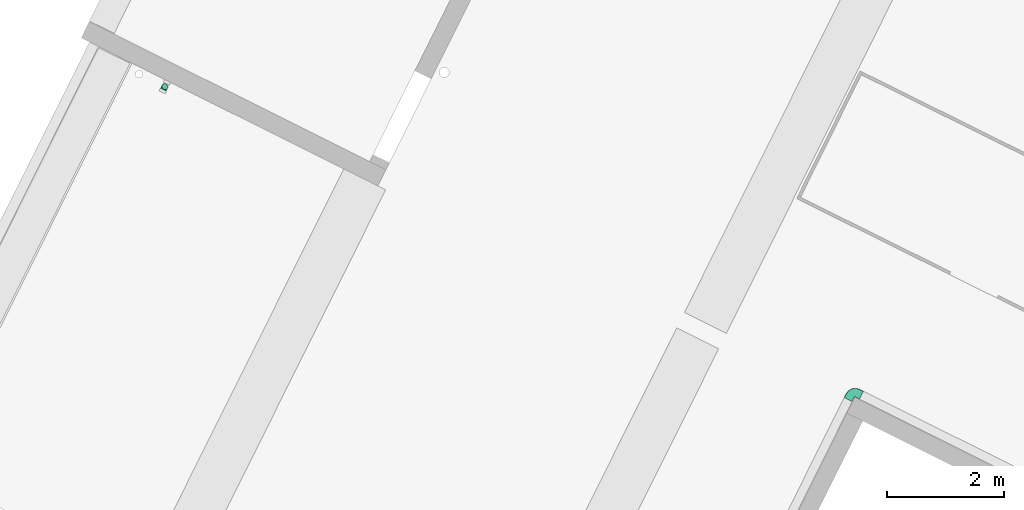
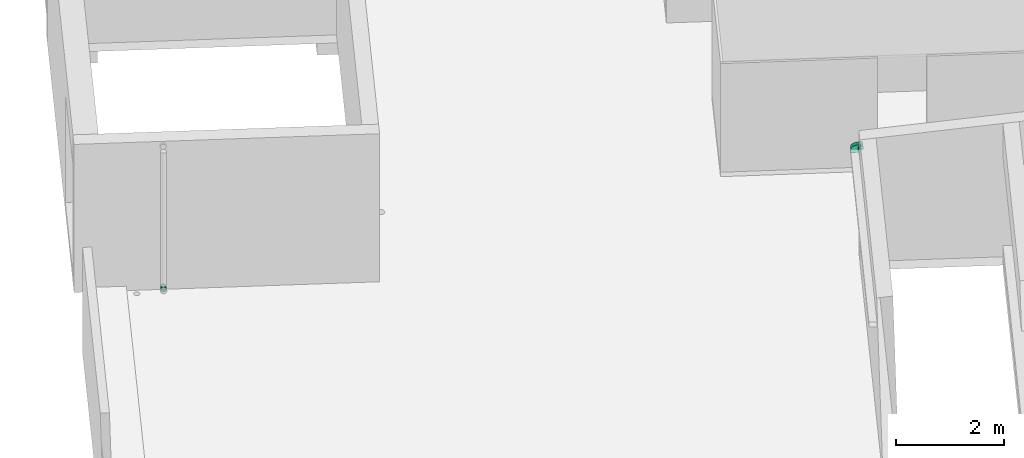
# One storey, part 19 of 34: 2 flow fittings.
"""IFC2X3 building model written with IfcOpenShell, lengths in metres."""

from ifc_helpers import new_model, entity, si_unit, converted_unit, derived_unit, direction, frame, origin, place, context, subcontext, project, spatial, faceted_brep, source, transform, mapped, type_object, type_shapes, element, save


model = new_model("IFC2X3")

# Units and contexts
model_context = context("Model", 3, precision=1e-05, world=origin(), true_north=direction((0.894925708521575, 0.446215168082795)))
context_of_model = context(None, 3, precision=1e-05, world=origin(), true_north=direction((0.894925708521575, 0.446215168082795)))
body_context = subcontext(model_context, "Body", "Model", "MODEL_VIEW")
ifc_project = project(units=[si_unit("LENGTHUNIT", "METRE"), si_unit("AREAUNIT", "SQUARE_METRE"), si_unit("VOLUMEUNIT", "CUBIC_METRE"), converted_unit("PLANEANGLEUNIT", "DEGREE", entity("IfcRatioMeasure", 0.0174532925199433), si_unit("PLANEANGLEUNIT", "RADIAN"), dimensions=[0, 0, 0, 0, 0, 0, 0]), si_unit("MASSUNIT", "GRAM", prefix="KILO"), si_unit("TIMEUNIT", "SECOND"), si_unit("FREQUENCYUNIT", "HERTZ"), si_unit("THERMODYNAMICTEMPERATUREUNIT", "DEGREE_CELSIUS"), derived_unit("THERMALTRANSMITTANCEUNIT", [(si_unit("MASSUNIT", "GRAM", prefix="KILO"), 1), (si_unit("THERMODYNAMICTEMPERATUREUNIT", "KELVIN"), -1), (si_unit("TIMEUNIT", "SECOND"), -3)]), derived_unit("VOLUMETRICFLOWRATEUNIT", [(si_unit("LENGTHUNIT", "METRE"), 3), (si_unit("TIMEUNIT", "SECOND"), -1)]), si_unit("ELECTRICCURRENTUNIT", "AMPERE"), si_unit("ELECTRICVOLTAGEUNIT", "VOLT"), si_unit("POWERUNIT", "WATT"), si_unit("FORCEUNIT", "NEWTON", prefix="KILO"), si_unit("ILLUMINANCEUNIT", "LUX"), si_unit("LUMINOUSFLUXUNIT", "LUMEN"), si_unit("LUMINOUSINTENSITYUNIT", "CANDELA"), si_unit("PRESSUREUNIT", "PASCAL")], contexts=[model_context, context_of_model])

# Site, building, storey
site_placement = place(None, frame((218.228324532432, 584.720189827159, 0.0), z_axis=(0.0, 0.0, 1.0), x_axis=(0.446215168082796, 0.894925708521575, 0.0)))
site = spatial("IfcSite", under=ifc_project, at=site_placement, Name="Default", CompositionType="ELEMENT")
building_placement = place(site_placement, origin())
building = spatial("IfcBuilding", under=site, at=building_placement, CompositionType="ELEMENT")
storey_placement = place(building_placement, frame((0.0, 0.0, 8.61)))
storey = spatial("IfcBuildingStorey", under=building, at=storey_placement, Name="2 - Piano Secondo", CompositionType="ELEMENT", Elevation=8.61)

# Flow fittings
cable_carrier_fitting_type = type_object("IfcCableCarrierFittingType", Name="Standard", PredefinedType="NOTDEFINED")
shared_shape_1 = source(origin(), body_context, "Body", "Brep", [
    faceted_brep([(-0.169999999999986, -0.0724600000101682, -0.0349600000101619), (-0.169999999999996, 0.0724600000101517, -0.0349600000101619), (-0.169999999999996, 0.0724600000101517, 0.0374999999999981), (-0.169999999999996, 0.0749999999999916, 0.0374999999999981), (-0.169999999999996, 0.0749999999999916, -0.0375000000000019), (-0.169999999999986, -0.0750000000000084, -0.0375000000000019), (-0.169999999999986, -0.0750000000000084, 0.0374999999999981), (-0.169999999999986, -0.0724600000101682, 0.0374999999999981), (-0.0749999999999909, 0.169999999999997, -0.0375000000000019), (-0.0749999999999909, 0.169999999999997, 0.0374999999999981), (-0.0724600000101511, 0.169999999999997, 0.0374999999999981), (-0.0724600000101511, 0.169999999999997, -0.0349600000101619), (0.0724600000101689, 0.169999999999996, -0.0349600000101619), (0.0724600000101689, 0.169999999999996, 0.0374999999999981), (0.075000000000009, 0.169999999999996, 0.0374999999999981), (0.075000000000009, 0.169999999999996, -0.0375000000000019), (-0.09499999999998, -0.0750000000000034, -0.0375000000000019), (-0.0949999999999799, -0.0750000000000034, 0.0374999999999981), (-0.0510007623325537, -0.0692073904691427, 0.0374999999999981), (-0.00999999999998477, -0.0522243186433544, 0.0374999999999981), (0.0252081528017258, -0.0252081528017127, 0.0374999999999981), (0.0522243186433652, 0.0099999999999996, 0.0374999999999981), (0.069207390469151, 0.0510007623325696, 0.0374999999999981), (0.0750000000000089, 0.0949999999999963, 0.0374999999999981), (0.0724600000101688, 0.0949999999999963, 0.0374999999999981), (0.0667539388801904, 0.0516581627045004, 0.0374999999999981), (0.0500246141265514, 0.0112699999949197, 0.0374999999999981), (0.023412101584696, -0.023412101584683, 0.0374999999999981), (-0.011269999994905, -0.0500246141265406, 0.0374999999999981), (-0.0516581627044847, -0.0667539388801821, 0.0374999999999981), (-0.0949999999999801, -0.0724600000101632, 0.0374999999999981), (-0.0949999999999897, 0.0724600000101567, 0.0374999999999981), (-0.08936500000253, 0.0739698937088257, 0.0374999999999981), (-0.0837300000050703, 0.0754797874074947, 0.0374999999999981), (-0.0796048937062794, 0.0796048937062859, 0.0374999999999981), (-0.0754797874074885, 0.083730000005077, 0.0374999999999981), (-0.0736114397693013, 0.0907027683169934, 0.0374999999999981), (-0.0724600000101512, 0.0949999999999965, 0.0374999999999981), (-0.0749999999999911, 0.0949999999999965, 0.0374999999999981), (-0.0763551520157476, 0.0917283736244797, 0.0374999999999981), (-0.0779289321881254, 0.0879289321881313, 0.0374999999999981), (-0.0793933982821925, 0.0843933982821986, 0.0374999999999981), (-0.0808578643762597, 0.080857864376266, 0.0374999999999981), (-0.0846573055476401, 0.0792840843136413, 0.0374999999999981), (-0.0884567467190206, 0.0777103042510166, 0.0374999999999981), (-0.0917283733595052, 0.0763551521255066, 0.0374999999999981), (-0.0949999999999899, 0.0749999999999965, 0.0374999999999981), (-0.0949999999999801, -0.0724600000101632, -0.0349600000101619), (-0.0516581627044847, -0.0667539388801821, -0.0349600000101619), (-0.011269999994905, -0.0500246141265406, -0.0349600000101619), (0.023412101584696, -0.023412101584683, -0.0349600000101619), (0.0500246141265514, 0.0112699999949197, -0.0349600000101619), (0.0667539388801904, 0.0516581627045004, -0.0349600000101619), (0.0724600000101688, 0.0949999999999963, -0.0349600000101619), (-0.0724600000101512, 0.0949999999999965, -0.0349600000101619), (-0.0739698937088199, 0.0893650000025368, -0.0349600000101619), (-0.0754797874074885, 0.083730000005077, -0.0349600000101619), (-0.0796048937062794, 0.0796048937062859, -0.0349600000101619), (-0.0837300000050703, 0.0754797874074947, -0.0349600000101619), (-0.0907027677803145, 0.0736114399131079, -0.0349600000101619), (-0.0949999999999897, 0.0724600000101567, -0.0349600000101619), (-0.0949999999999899, 0.0749999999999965, -0.0375000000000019), (-0.0749999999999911, 0.0949999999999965, -0.0375000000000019), (0.0750000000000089, 0.0949999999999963, -0.0375000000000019), (0.069207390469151, 0.0510007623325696, -0.0375000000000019), (0.0522243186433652, 0.0099999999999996, -0.0375000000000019), (0.0252081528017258, -0.0252081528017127, -0.0375000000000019), (-0.00999999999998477, -0.0522243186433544, -0.0375000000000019), (-0.0510007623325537, -0.0692073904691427, -0.0375000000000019), (-0.0914644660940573, 0.0764644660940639, -0.0375000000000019), (-0.0879289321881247, 0.0779289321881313, -0.0375000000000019), (-0.0843933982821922, 0.0793933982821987, -0.0375000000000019), (-0.0808578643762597, 0.080857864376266, -0.0375000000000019), (-0.0793933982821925, 0.0843933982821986, -0.0375000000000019), (-0.0779289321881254, 0.0879289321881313, -0.0375000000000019), (-0.0764644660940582, 0.0914644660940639, -0.0375000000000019)], [[[0, 1, 2, 3, 4, 5, 6, 7]], [[8, 9, 10, 11, 12, 13, 14, 15]], [[6, 5, 16, 17]], [[7, 6, 17, 18, 19, 20, 21, 22, 23, 14, 13, 24, 25, 26, 27, 28, 29, 30]], [[2, 31, 32, 33, 34, 35, 36, 37, 10, 9, 38, 39, 40, 41, 42, 43, 44, 45, 46, 3]], [[0, 7, 30, 47]], [[1, 0, 47, 48, 49, 50, 51, 52, 53, 12, 11, 54, 55, 56, 57, 58, 59, 60]], [[2, 1, 60, 31]], [[4, 3, 46, 61]], [[62, 8, 15, 63, 64, 65, 66, 67, 68, 16, 5, 4, 61, 69, 70, 71, 72, 73, 74, 75]], [[18, 17, 16, 68]], [[19, 18, 68, 67]], [[20, 19, 67, 66]], [[21, 65, 64, 22]], [[22, 64, 63, 23]], [[66, 65, 21, 20]], [[48, 47, 30, 29]], [[49, 48, 29, 28]], [[49, 28, 27, 50]], [[52, 51, 26, 25]], [[53, 52, 25, 24]], [[27, 26, 51, 50]], [[32, 31, 60, 59, 58, 33]], [[56, 35, 34, 33, 58, 57]], [[54, 37, 36, 35, 56, 55]], [[43, 42, 72, 71, 70, 69, 61, 46, 45, 44]], [[41, 40, 39, 38, 62, 75, 74, 73, 72, 42]], [[23, 63, 15, 14]], [[53, 24, 13, 12]], [[37, 54, 11, 10]], [[62, 38, 9, 8]]]),
])
type_shapes(cable_carrier_fitting_type, [shared_shape_1])
flow_fitting_1_placement = place(storey_placement, frame((-4.49937167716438, -8.0160789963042, 2.35), z_axis=(0.0, 0.0, 1.0), x_axis=(0.0, 1.0, 0.0)))
element("IfcFlowFitting", 1, at=flow_fitting_1_placement, inside=storey, type_object=cable_carrier_fitting_type, Name="M_Curvatura orizzontale canale:Standard", ObjectType="Standard", context=body_context, shape_type="MappedRepresentation", body=[
    mapped(shared_shape_1, transform((0.0, 0.0, 0.0), scale=1.0)),
])
pipe_fitting_type = type_object("IfcPipeFittingType", Name="Standard", PredefinedType="NOTDEFINED")
shared_shape_2 = source(origin(), body_context, "Body", "Brep", [
    faceted_brep([(-0.0587374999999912, 0.0135588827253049, -0.0506024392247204), (-0.0587374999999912, 0.0, -0.0523875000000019), (-0.0587374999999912, -0.0135588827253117, -0.0506024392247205), (-0.0587374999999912, -0.0261937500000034, -0.0453689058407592), (-0.0587374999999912, -0.0370435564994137, -0.0370435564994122), (-0.0587374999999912, -0.0453689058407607, -0.026193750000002), (-0.0587374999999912, -0.0506024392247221, -0.0135588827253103), (-0.0587374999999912, -0.0523875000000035, 0.0), (-0.0587374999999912, -0.0506024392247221, 0.0135588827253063), (-0.0587374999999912, -0.0453689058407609, 0.026193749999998), (-0.0587374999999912, -0.0370435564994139, 0.0370435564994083), (-0.0587374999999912, -0.0261937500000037, 0.0453689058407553), (-0.0587374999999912, -0.013558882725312, 0.0506024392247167), (-0.0587374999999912, 0.0, 0.0523874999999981), (-0.0587374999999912, 0.0135588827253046, 0.0506024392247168), (-0.0587374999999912, 0.0198763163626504, 0.0479856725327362), (-0.0587374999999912, 0.0261937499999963, 0.0453689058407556), (-0.0587374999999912, 0.0370435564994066, 0.0370435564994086), (-0.0587374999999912, 0.0453689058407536, 0.0261937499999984), (-0.0587374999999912, 0.050602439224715, 0.0135588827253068), (-0.0587374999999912, 0.0523874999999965, 0.0), (-0.0587374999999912, 0.0506024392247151, -0.0135588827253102), (-0.0587374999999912, 0.0453689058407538, -0.0261937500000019), (-0.0587374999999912, 0.0370435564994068, -0.0370435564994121), (-0.0587374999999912, 0.0261937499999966, -0.0453689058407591), (-0.0506024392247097, 0.0587374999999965, -0.0135588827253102), (-0.0523874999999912, 0.0587374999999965, 0.0), (-0.0506024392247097, 0.0587374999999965, 0.0135588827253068), (-0.0453689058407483, 0.0587374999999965, 0.0261937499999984), (-0.0370435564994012, 0.0587374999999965, 0.0370435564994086), (-0.0261937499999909, 0.0587374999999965, 0.0453689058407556), (-0.0135588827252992, 0.0587374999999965, 0.0506024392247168), (0.0, 0.0587374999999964, 0.0523874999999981), (0.0135588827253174, 0.0587374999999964, 0.0506024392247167), (0.026193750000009, 0.0587374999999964, 0.0453689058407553), (0.0370435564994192, 0.0587374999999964, 0.0370435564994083), (0.0453689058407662, 0.0587374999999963, 0.026193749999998), (0.0506024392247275, 0.0587374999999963, 0.0135588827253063), (0.0523875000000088, 0.0587374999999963, 0.0), (0.0506024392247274, 0.0587374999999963, -0.0135588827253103), (0.0453689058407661, 0.0587374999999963, -0.026193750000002), (0.037043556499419, 0.0587374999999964, -0.0370435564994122), (0.0261937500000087, 0.0587374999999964, -0.0453689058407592), (0.0135588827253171, 0.0587374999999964, -0.0506024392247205), (0.0, 0.0587374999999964, -0.0523875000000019), (-0.0135588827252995, 0.0587374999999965, -0.0506024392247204), (-0.0198763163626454, 0.0587374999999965, -0.0479856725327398), (-0.0261937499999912, 0.0587374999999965, -0.0453689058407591), (-0.0370435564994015, 0.0587374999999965, -0.0370435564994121), (-0.0453689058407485, 0.0587374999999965, -0.0261937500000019), (-0.0477232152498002, -0.0428768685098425, 0.029234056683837), (-0.0404424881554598, -0.0487405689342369, 0.0146871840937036), (-0.0330754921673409, -0.0426115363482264, 0.02541456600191), (-0.0415677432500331, -0.049668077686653, 0.0), (0.0487405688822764, 0.0404424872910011, 0.0146871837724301), (0.031246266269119, 0.0148508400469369, 0.0321295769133), (0.0388833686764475, 0.0178115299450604, 0.0229045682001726), (0.0367285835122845, 0.0270467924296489, 0.0315108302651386), (-0.0199941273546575, -0.0437374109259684, 0.0127317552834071), (-0.0243979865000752, -0.0469486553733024, 0.0), (-0.00890892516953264, -0.039056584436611, 0.0), (0.0201213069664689, 0.0171012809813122, 0.042637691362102), (0.0230744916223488, 0.037920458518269, 0.0456608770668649), (0.00972866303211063, 0.0282591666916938, 0.0498177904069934), (-0.0491222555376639, 0.0144700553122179, 0.0506347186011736), (-0.0461599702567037, 0.0299660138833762, 0.0446893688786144), (-0.0379204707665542, -0.0230744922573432, 0.0456608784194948), (-0.0171012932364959, -0.0201213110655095, 0.0426376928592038), (-0.028259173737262, -0.00972866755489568, 0.0498177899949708), (-0.040589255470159, -0.0342234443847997, 0.0380789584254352), (-0.0270467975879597, -0.0367285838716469, 0.0315108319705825), (-0.0271152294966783, -0.0291112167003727, 0.03930979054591), (-0.0534446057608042, 0.0534446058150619, 0.0108471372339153), (-0.0495063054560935, 0.0496646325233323, 0.025443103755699), (-0.0173243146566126, 0.0419210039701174, 0.0504710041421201), (-0.00371546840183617, 0.0428654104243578, 0.0523668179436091), (-0.0450087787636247, -0.00973337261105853, 0.0511988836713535), (-0.0299568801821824, 0.046486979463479, 0.0446150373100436), (-0.0399230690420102, 0.0173966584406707, 0.0506667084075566), (-0.0424424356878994, 0.00369105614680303, 0.052370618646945), (-0.0263131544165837, 0.00911196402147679, 0.0523846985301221), (-0.00146414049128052, -0.0204367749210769, 0.0349996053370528), (0.00326567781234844, -0.0262911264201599, 0.0241349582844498), (0.0134674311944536, -0.014700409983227, 0.0280406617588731), (-0.051439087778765, 0.0405009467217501, 0.0348719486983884), (0.00973337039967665, 0.0450087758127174, 0.0511988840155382), (0.035173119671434, 0.00432985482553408, 0.0162746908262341), (0.0311645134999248, -0.00658013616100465, 0.0), (0.0390565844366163, 0.00890892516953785, 0.0), (0.00819521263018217, -0.00866873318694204, 0.0378156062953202), (-0.00965050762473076, -0.0101996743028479, 0.0455427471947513), (0.0428768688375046, 0.047723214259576, 0.0292340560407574), (-0.0246124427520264, 0.0342586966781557, 0.0496407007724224), (-0.0333214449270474, 0.0280057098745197, 0.048875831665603), (-0.0208506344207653, 0.0237046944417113, 0.0518992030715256), (0.0342234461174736, 0.0405892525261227, 0.0380789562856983), (0.0291112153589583, 0.0271152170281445, 0.0393097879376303), (0.0469486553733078, 0.0243979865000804, 0.0), (0.0496680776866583, 0.0415677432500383, 0.0), (0.043737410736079, 0.0199941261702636, 0.0127317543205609), (-0.00986713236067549, 0.0306998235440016, 0.0523327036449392), (-0.0542473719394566, 0.0542473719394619, 0.0), (-0.0405009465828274, 0.0514390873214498, 0.0348719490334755), (-0.0424073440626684, 0.0424073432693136, 0.0383928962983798), (0.0238466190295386, -0.0126740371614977, 0.0141509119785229), (-0.0141620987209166, -0.000990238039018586, 0.0499511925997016), (-0.00750695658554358, 0.0132290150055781, 0.0514652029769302), (0.00658013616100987, -0.0311645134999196, 0.0), (-0.00432985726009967, -0.0351731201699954, 0.0162746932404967), (0.042611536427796, 0.0330754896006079, 0.025414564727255), (-0.0347196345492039, 0.037964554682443, 0.0449042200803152), (0.000171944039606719, 0.0306895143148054, 0.0519816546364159), (-0.0178115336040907, -0.0388833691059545, 0.022904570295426), (0.0188723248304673, -0.0188723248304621, 0.0), (0.0120090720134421, -0.0250981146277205, 0.0121471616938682), (0.0200875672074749, 0.000757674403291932, 0.0348495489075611), (0.024463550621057, -0.0051316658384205, 0.0247890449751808), (0.000788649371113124, -0.000788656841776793, 0.0457929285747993), (0.00240405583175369, 0.0189002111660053, 0.0504158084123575), (0.0110535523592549, 0.0154294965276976, 0.0468715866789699), (-0.0148508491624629, -0.0312462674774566, 0.0321295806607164), (0.0125287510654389, 0.00468746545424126, 0.0424445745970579), (-0.0144700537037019, 0.0491222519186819, -0.0506347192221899), (-0.00432985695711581, -0.0351731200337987, -0.0162746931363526), (-0.0199941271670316, -0.0437374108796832, -0.0127317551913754), (-0.041921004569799, 0.0173243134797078, -0.0504710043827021), (-0.0428654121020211, 0.00371546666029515, -0.0523668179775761), (-0.0496646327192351, 0.0495063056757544, -0.0254431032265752), (-0.0424073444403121, 0.0424073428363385, -0.0383928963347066), (-0.0514390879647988, 0.0405009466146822, -0.0348719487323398), (0.020436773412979, 0.00146413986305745, -0.0349996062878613), (0.00866872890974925, -0.00819521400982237, -0.0378156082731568), (0.0101996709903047, 0.00965050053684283, -0.0455427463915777), (-0.0171012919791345, -0.020121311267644, -0.0426376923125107), (-0.0148508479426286, -0.0312462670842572, -0.0321295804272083), (-0.027115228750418, -0.0291112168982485, -0.0393097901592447), (-0.00911196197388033, 0.0263131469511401, -0.0523846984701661), (0.00972866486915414, 0.0282591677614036, -0.049817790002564), (0.000990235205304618, 0.0141620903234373, -0.0499511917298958), (-0.0132290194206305, 0.0075069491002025, -0.0514652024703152), (-0.0237046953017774, 0.0208506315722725, -0.0518992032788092), (-0.0404424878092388, -0.0487405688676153, -0.014687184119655), (-0.0477232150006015, -0.0428768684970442, -0.0292340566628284), (-0.0280057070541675, 0.0333214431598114, -0.0488758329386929), (-0.0299660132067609, 0.0461599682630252, -0.0446893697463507), (-0.0173966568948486, 0.0399230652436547, -0.0506667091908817), (-0.0534446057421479, 0.0534446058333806, -0.0108471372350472), (-0.0405892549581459, -0.034223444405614, -0.0380789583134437), (-0.0379204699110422, -0.0230744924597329, -0.0456608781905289), (-0.0282591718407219, -0.00972866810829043, -0.0498177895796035), (-0.0342586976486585, 0.0246124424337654, -0.0496407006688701), (-0.0464869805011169, 0.0299568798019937, -0.044615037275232), (-0.045008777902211, -0.00973337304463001, -0.0511988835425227), (-0.0178115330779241, -0.0388833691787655, -0.022904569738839), (-0.0270467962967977, -0.0367285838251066, -0.0315108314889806), (-0.0330754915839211, -0.0426115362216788, -0.0254145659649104), (0.0230744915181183, 0.0379204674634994, -0.0456608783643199), (0.0291112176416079, 0.0271152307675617, -0.0393097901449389), (0.0201213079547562, 0.0171012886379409, -0.0426376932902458), (-0.040500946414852, 0.0514390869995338, -0.0348719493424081), (-0.00369105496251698, 0.0424424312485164, -0.0523706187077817), (0.0428768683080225, 0.0477232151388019, -0.0292340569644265), (0.00973337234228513, 0.045008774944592, -0.0511988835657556), (0.0342234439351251, 0.0405892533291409, -0.0380789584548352), (0.0262911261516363, -0.00326567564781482, -0.0241349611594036), (0.0147004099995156, -0.0134674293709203, -0.0280406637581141), (0.0487405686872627, 0.0404424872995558, -0.0146871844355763), (0.0437374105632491, 0.0199941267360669, -0.0127317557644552), (0.0426115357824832, 0.0330754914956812, -0.0254145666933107), (0.0126740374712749, -0.0238466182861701, -0.0141509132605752), (-0.0306998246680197, 0.00986712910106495, -0.052332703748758), (0.0367285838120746, 0.0270467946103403, -0.0315108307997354), (0.0351731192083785, 0.00432985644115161, -0.0162746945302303), (-0.0379645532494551, 0.0347196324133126, -0.0449042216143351), (-0.0306895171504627, -0.000171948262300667, -0.0519816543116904), (0.0388833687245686, 0.0178115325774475, -0.0229045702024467), (0.025098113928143, -0.0120090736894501, -0.0121471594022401), (-0.000757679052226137, -0.0200875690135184, -0.0348495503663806), (0.0051316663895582, -0.0244635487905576, -0.0247890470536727), (0.000788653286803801, -0.000788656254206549, -0.0457929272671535), (-0.0189002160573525, -0.00240406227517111, -0.050415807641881), (-0.0154295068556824, -0.0110535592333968, -0.0468715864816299), (0.0312462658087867, 0.0148508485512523, -0.0321295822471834), (-0.00468747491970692, -0.0125287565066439, -0.0424445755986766)], [[[0, 1, 2, 3, 4, 5, 6, 7, 8, 9, 10, 11, 12, 13, 14, 15, 16, 17, 18, 19, 20, 21, 22, 23, 24]], [[25, 26, 27, 28, 29, 30, 31, 32, 33, 34, 35, 36, 37, 38, 39, 40, 41, 42, 43, 44, 45, 46, 47, 48, 49]], [[50, 51, 52]], [[53, 8, 7]], [[36, 54, 37]], [[55, 56, 57]], [[58, 59, 60]], [[61, 62, 63]], [[64, 65, 16]], [[66, 67, 68]], [[11, 69, 66]], [[70, 71, 69]], [[72, 73, 27]], [[31, 74, 75]], [[66, 68, 76]], [[13, 12, 76]], [[30, 77, 74]], [[16, 15, 14, 64]], [[78, 79, 80]], [[81, 82, 83]], [[51, 9, 8]], [[18, 17, 84]], [[30, 29, 77]], [[84, 73, 18]], [[72, 20, 19]], [[12, 11, 66]], [[16, 65, 17]], [[10, 9, 50]], [[33, 32, 85]], [[18, 73, 19]], [[62, 33, 85]], [[86, 87, 88]], [[81, 89, 90]], [[33, 62, 34]], [[35, 91, 36]], [[75, 32, 31]], [[92, 93, 94]], [[36, 91, 54]], [[62, 95, 34]], [[61, 55, 96]], [[54, 97, 98]], [[93, 65, 78]], [[97, 99, 88]], [[100, 75, 74]], [[101, 20, 72]], [[11, 10, 69]], [[101, 72, 26]], [[66, 71, 67]], [[102, 73, 103]], [[86, 88, 99]], [[28, 102, 29]], [[87, 86, 104]], [[28, 27, 73]], [[80, 68, 105]], [[106, 94, 80]], [[31, 30, 74]], [[14, 13, 79]], [[107, 108, 60]], [[35, 34, 95]], [[54, 109, 99]], [[8, 53, 51]], [[98, 37, 54]], [[76, 79, 13]], [[78, 80, 94]], [[93, 78, 94]], [[84, 65, 103]], [[102, 77, 29]], [[65, 93, 110]], [[74, 92, 100]], [[75, 111, 85]], [[57, 96, 55]], [[91, 95, 109]], [[50, 69, 10]], [[70, 52, 112]], [[51, 59, 58]], [[59, 51, 53]], [[38, 37, 98]], [[108, 112, 58]], [[58, 112, 52]], [[107, 113, 114]], [[61, 115, 55]], [[116, 115, 83]], [[99, 56, 86]], [[55, 115, 116]], [[108, 58, 60]], [[51, 58, 52]], [[54, 99, 97]], [[99, 109, 56]], [[79, 68, 80]], [[106, 105, 117]], [[63, 111, 118]], [[100, 111, 75]], [[119, 63, 118]], [[81, 83, 89]], [[81, 67, 120]], [[105, 90, 117]], [[121, 115, 61]], [[83, 104, 116]], [[83, 82, 114]], [[114, 113, 104]], [[83, 114, 104]], [[113, 87, 104]], [[108, 107, 114]], [[82, 120, 108]], [[83, 115, 89]], [[120, 82, 81]], [[114, 82, 108]], [[121, 89, 115]], [[90, 89, 117]], [[75, 85, 32]], [[62, 85, 63]], [[66, 76, 12]], [[79, 76, 68]], [[94, 100, 92]], [[103, 110, 77]], [[94, 106, 100]], [[106, 118, 111]], [[106, 111, 100]], [[85, 111, 63]], [[106, 117, 118]], [[117, 121, 119]], [[74, 77, 92]], [[110, 92, 77]], [[104, 86, 116]], [[55, 116, 86]], [[108, 120, 112]], [[70, 112, 120]], [[71, 70, 120]], [[69, 52, 70]], [[67, 71, 120]], [[69, 71, 66]], [[57, 56, 109]], [[55, 86, 56]], [[109, 95, 57]], [[96, 95, 62]], [[95, 96, 57]], [[61, 96, 62]], [[73, 102, 28]], [[77, 102, 103]], [[65, 84, 17]], [[73, 84, 103]], [[80, 105, 106]], [[90, 68, 67]], [[68, 90, 105]], [[81, 90, 67]], [[73, 72, 19]], [[26, 72, 27]], [[51, 50, 9]], [[69, 50, 52]], [[95, 91, 35]], [[54, 91, 109]], [[78, 65, 64]], [[14, 79, 64]], [[79, 78, 64]], [[119, 121, 61]], [[89, 121, 117]], [[63, 119, 61]], [[117, 119, 118]], [[65, 110, 103]], [[92, 110, 93]], [[46, 45, 122, 47]], [[123, 60, 124]], [[125, 0, 24]], [[1, 0, 126]], [[127, 128, 129]], [[59, 124, 60]], [[22, 129, 23]], [[130, 131, 132]], [[22, 21, 127]], [[133, 134, 135]], [[136, 137, 138]], [[139, 140, 136]], [[141, 5, 142]], [[143, 144, 145]], [[141, 59, 53]], [[146, 127, 21]], [[147, 3, 148]], [[133, 148, 149]], [[2, 148, 3]], [[150, 143, 140]], [[24, 23, 151]], [[142, 5, 4]], [[4, 3, 147]], [[2, 152, 148]], [[123, 107, 60]], [[134, 153, 154]], [[20, 101, 146]], [[141, 155, 124]], [[26, 25, 146]], [[156, 157, 158]], [[49, 159, 127]], [[122, 144, 47]], [[45, 44, 160]], [[48, 159, 49]], [[41, 40, 161]], [[145, 160, 136]], [[156, 137, 162]], [[151, 125, 24]], [[144, 48, 47]], [[0, 125, 126]], [[43, 162, 44]], [[163, 156, 42]], [[130, 164, 165]], [[166, 40, 39]], [[167, 97, 88]], [[137, 156, 158]], [[2, 1, 152]], [[168, 161, 166]], [[107, 123, 169]], [[38, 98, 39]], [[42, 41, 163]], [[170, 126, 125]], [[171, 157, 163]], [[43, 42, 156]], [[5, 141, 6]], [[39, 98, 166]], [[20, 146, 21]], [[87, 172, 88]], [[49, 127, 25]], [[53, 6, 141]], [[162, 160, 44]], [[145, 136, 140]], [[143, 145, 140]], [[159, 144, 128]], [[129, 151, 23]], [[144, 143, 173]], [[125, 150, 170]], [[126, 174, 152]], [[154, 135, 134]], [[142, 147, 155]], [[161, 163, 41]], [[171, 168, 175]], [[166, 97, 167]], [[97, 166, 98]], [[7, 6, 53]], [[172, 175, 167]], [[167, 175, 168]], [[87, 113, 176]], [[133, 177, 134]], [[178, 177, 165]], [[124, 153, 123]], [[134, 177, 178]], [[172, 167, 88]], [[166, 167, 168]], [[141, 124, 59]], [[124, 155, 153]], [[160, 137, 136]], [[139, 138, 179]], [[149, 174, 180]], [[170, 174, 126]], [[181, 149, 180]], [[130, 165, 131]], [[130, 158, 182]], [[138, 132, 179]], [[183, 177, 133]], [[165, 169, 178]], [[165, 164, 176]], [[176, 113, 169]], [[165, 176, 169]], [[113, 107, 169]], [[172, 87, 176]], [[164, 182, 172]], [[165, 177, 131]], [[182, 164, 130]], [[176, 164, 172]], [[183, 131, 177]], [[132, 131, 179]], [[126, 152, 1]], [[148, 152, 149]], [[156, 162, 43]], [[160, 162, 137]], [[140, 170, 150]], [[128, 173, 151]], [[140, 139, 170]], [[139, 180, 174]], [[139, 174, 170]], [[152, 174, 149]], [[139, 179, 180]], [[179, 183, 181]], [[125, 151, 150]], [[173, 150, 151]], [[169, 123, 178]], [[134, 178, 123]], [[172, 182, 175]], [[171, 175, 182]], [[157, 171, 182]], [[163, 168, 171]], [[158, 157, 182]], [[163, 157, 156]], [[154, 153, 155]], [[134, 123, 153]], [[155, 147, 154]], [[135, 147, 148]], [[147, 135, 154]], [[133, 135, 148]], [[127, 129, 22]], [[151, 129, 128]], [[144, 159, 48]], [[127, 159, 128]], [[136, 138, 139]], [[132, 137, 158]], [[137, 132, 138]], [[130, 132, 158]], [[26, 146, 101]], [[127, 146, 25]], [[166, 161, 40]], [[163, 161, 168]], [[147, 142, 4]], [[141, 142, 155]], [[145, 144, 122]], [[45, 160, 122]], [[160, 145, 122]], [[181, 183, 133]], [[131, 183, 179]], [[149, 181, 133]], [[179, 181, 180]], [[144, 173, 128]], [[150, 173, 143]]]),
])
type_shapes(pipe_fitting_type, [shared_shape_2])
flow_fitting_2_placement = place(storey_placement, frame((-5.09293502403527, 4.80892100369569, 0.10714999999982), z_axis=(0.0, -1.0, 0.0), x_axis=(1.0, 0.0, 0.0)))
element("IfcFlowFitting", 2, at=flow_fitting_2_placement, inside=storey, type_object=pipe_fitting_type, Name="M_Gomito - Generico:Standard", ObjectType="Standard", context=body_context, shape_type="MappedRepresentation", body=[
    mapped(shared_shape_2, transform((0.0, 0.0, 0.0), scale=1.0)),
])

save(model, "model.ifc")
